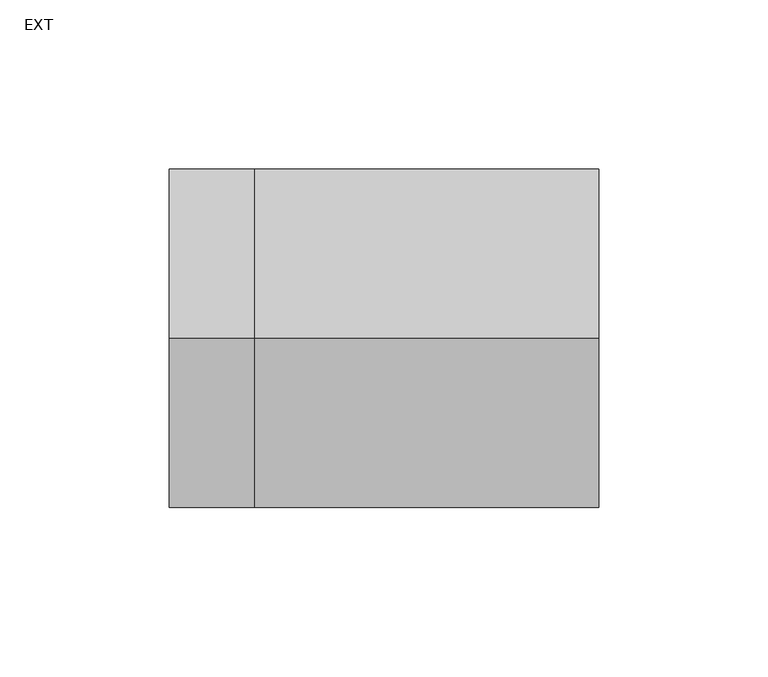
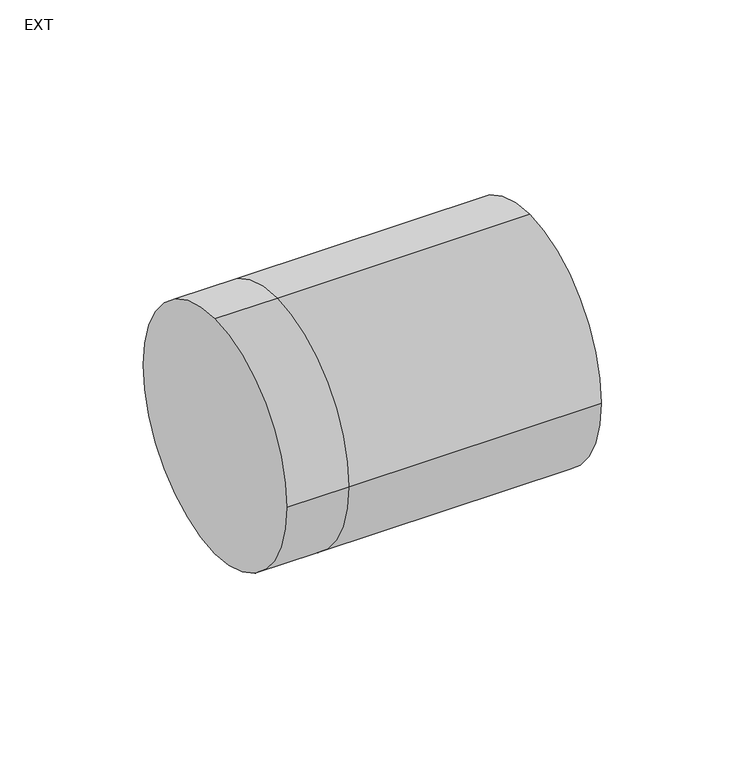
"""IFC4 building model written with IfcOpenShell, lengths in millimetres: duct fitting geometry, M_Toma de derivación redonda : EXT."""

import ifcopenshell
import ifcopenshell.guid

model = None  # the IFC model being written
_history = None  # IfcOwnerHistory: only IFC2X3 demands one
_inside = {}  # id of a spatial element -> (the spatial element, [elements in it])
_under = {}  # id of a project, library or spatial element -> (it, [spatial elements below it])
_declared = {}  # id of a project -> (the project, [libraries it declares])
_typed = {}  # id of a type object -> (the type object, [elements of that type])
_made_of = {}  # id of a material, layer set ... -> (it, [elements and type objects made of it])


def new_model(schema):
    """Start an empty IFC model of exactly this schema.

    Asked for "IFC4X3", IfcOpenShell would pick the latest addendum, in which some entities
    have other attributes; the version numbers below select the first issue.
    IFC2X3 requires an IfcOwnerHistory on every rooted entity: one is made here for all.
    """
    global model, _history
    if schema == "IFC4X3":
        model = ifcopenshell.file(schema_version=(4, 3, 0, 0))
    else:
        model = ifcopenshell.file(schema=schema)
    _inside.clear()
    _under.clear()
    _declared.clear()
    _typed.clear()
    _made_of.clear()
    _history = None
    if model.schema == "IFC2X3":
        org = make("IfcOrganization", Name="unknown")
        user = make(
            "IfcPersonAndOrganization",
            ThePerson=make("IfcPerson", FamilyName="unknown"),
            TheOrganization=org,
        )
        app = make(
            "IfcApplication",
            ApplicationDeveloper=org,
            Version="unknown",
            ApplicationFullName="unknown",
            ApplicationIdentifier="unknown",
        )
        _history = make(
            "IfcOwnerHistory",
            OwningUser=user,
            OwningApplication=app,
            ChangeAction="ADDED",
            CreationDate=0,
        )
    return model


def make(cls, **values):
    """One entity of the class cls with the attributes given. An attribute that is None is left unset."""
    return model.create_entity(
        cls, **{name: value for name, value in values.items() if value is not None}
    )


def rooted(cls, **values):
    """An entity with a GlobalId (a new one), such as an element, a storey or a relation."""
    return make(cls, GlobalId=ifcopenshell.guid.new(), OwnerHistory=_history, **values)


def si_unit(unit_type, name, prefix=None):
    """IfcSIUnit, for example si_unit("LENGTHUNIT", "METRE", prefix="MILLI")."""
    return make("IfcSIUnit", UnitType=unit_type, Prefix=prefix, Name=name)


def assignment(units):
    """IfcUnitAssignment: the units of a project."""
    return None if units is None else make("IfcUnitAssignment", Units=units)


def point(xyz):
    """IfcCartesianPoint."""
    return None if xyz is None else make("IfcCartesianPoint", Coordinates=xyz)


def direction(xyz):
    """IfcDirection."""
    return None if xyz is None else make("IfcDirection", DirectionRatios=xyz)


def frame(location, z_axis=None, x_axis=None):
    """IfcAxis2Placement3D, a coordinate frame: its origin and axes. An axis left out is left unset."""
    return make(
        "IfcAxis2Placement3D",
        Location=point(location),
        Axis=direction(z_axis),
        RefDirection=direction(x_axis),
    )


def origin():
    """The frame at (0, 0, 0) with its axes left unset."""
    return frame((0.0, 0.0, 0.0))


def place(relative_to, where):
    """IfcLocalPlacement: puts the frame where relative to a parent placement (None: the world)."""
    return make(
        "IfcLocalPlacement", PlacementRelTo=relative_to, RelativePlacement=where
    )


def context(
    kind, dimensions, precision=None, world=None, true_north=None, identifier=None
):
    """IfcGeometricRepresentationContext, for example the 3D "Model" context."""
    return make(
        "IfcGeometricRepresentationContext",
        ContextIdentifier=identifier,
        ContextType=kind,
        CoordinateSpaceDimension=dimensions,
        Precision=precision,
        WorldCoordinateSystem=world,
        TrueNorth=true_north,
    )


def project(units=None, contexts=None):
    """IfcProject with its units and contexts."""
    return rooted(
        "IfcProject",
        Name="project",
        RepresentationContexts=contexts,
        UnitsInContext=assignment(units),
    )


def spatial(cls, under=None, at=None, **own):
    """A site, building, storey or space (cls), placed at a placement, below another one or the project."""
    s = rooted(cls, ObjectPlacement=at, **own)
    if under is not None:
        _under.setdefault(under.id(), (under, []))[1].append(s)
    return s


def circle_curve(where, radius):
    """IfcCircle in the frame where."""
    return make("IfcCircle", Position=where, Radius=radius)


def shape(context_of_items, identifier, shape_type, items):
    """IfcShapeRepresentation: the items that make up one representation, for example the "Body"."""
    return make(
        "IfcShapeRepresentation",
        ContextOfItems=context_of_items,
        RepresentationIdentifier=identifier,
        RepresentationType=shape_type,
        Items=items,
    )


def source(mapping_origin, context_of_items, identifier, shape_type, items):
    """IfcRepresentationMap: a shape defined once, which mapped items show again and again."""
    return make(
        "IfcRepresentationMap",
        MappingOrigin=mapping_origin,
        MappedRepresentation=shape(context_of_items, identifier, shape_type, items),
    )


def transform(
    local_origin,
    x_axis=None,
    y_axis=None,
    z_axis=None,
    scale=None,
    scale2=None,
    scale3=None,
    uniform=True,
):
    """IfcCartesianTransformationOperator3D, or its non-uniform kind. x_axis, y_axis, z_axis: its Axis1, 2, 3."""
    if uniform:
        return make(
            "IfcCartesianTransformationOperator3D",
            Axis1=direction(x_axis),
            Axis2=direction(y_axis),
            LocalOrigin=point(local_origin),
            Scale=scale,
            Axis3=direction(z_axis),
        )
    return make(
        "IfcCartesianTransformationOperator3DnonUniform",
        Axis1=direction(x_axis),
        Axis2=direction(y_axis),
        LocalOrigin=point(local_origin),
        Scale=scale,
        Axis3=direction(z_axis),
        Scale2=scale2,
        Scale3=scale3,
    )


def mapped(mapping_source, mapping_target):
    """IfcMappedItem: shows the shape of a source again, moved by a transform."""
    return make(
        "IfcMappedItem", MappingSource=mapping_source, MappingTarget=mapping_target
    )


def made_of(thing, what):
    """Note that an element or type object is made of a material, layer set ...; save() writes the relation."""
    if what is not None:
        _made_of.setdefault(what.id(), (what, []))[1].append(thing)
    return thing


def element(
    cls,
    number,
    at=None,
    inside=None,
    cuts=None,
    type_object=None,
    material=None,
    context=None,
    identifier="Body",
    shape_type=None,
    held_by="IfcProductDefinitionShape",
    body=None,
    shapes=None,
    **own,
):
    """One element of the class cls, such as IfcWall. Its Tag is "e" and its number.

    at: its placement. inside: the storey or other place that contains it. cuts: it is an
    opening in that element (IfcRelVoidsElement). A single representation is given by context,
    identifier, shape_type and body (its items); several are given by shapes. held_by: the class
    of the entity that holds the representations. save() writes the other relations.
    """
    e = rooted(cls, Tag="e%d" % number, ObjectPlacement=at, **own)
    if body is not None:
        shapes = [shape(context, identifier, shape_type, body)]
    if shapes is not None:
        e.Representation = make(held_by, Representations=shapes)
    if inside is not None:
        _inside.setdefault(inside.id(), (inside, []))[1].append(e)
    if cuts is not None:
        rooted(
            "IfcRelVoidsElement", RelatingBuildingElement=cuts, RelatedOpeningElement=e
        )
    if type_object is not None:
        _typed.setdefault(type_object.id(), (type_object, []))[1].append(e)
    return made_of(e, material)


def aggregate(whole, parts):
    """IfcRelAggregates: a whole, such as a stair, and the parts it consists of."""
    return rooted("IfcRelAggregates", RelatingObject=whole, RelatedObjects=parts)


def save(model, path):
    """Write the relations noted so far, then the file.

    IfcRelAggregates (storeys below a building ...), IfcRelContainedInSpatialStructure (elements
    in a storey), IfcRelDefinesByType, IfcRelAssociatesMaterial and IfcRelDeclares: one each for
    every whole, place, type object, material and project.
    """
    for whole, parts in _under.values():
        aggregate(whole, parts)
    for where, things in _inside.values():
        rooted(
            "IfcRelContainedInSpatialStructure",
            RelatedElements=things,
            RelatingStructure=where,
        )
    for kind, things in _typed.values():
        rooted("IfcRelDefinesByType", RelatedObjects=things, RelatingType=kind)
    for what, things in _made_of.values():
        rooted("IfcRelAssociatesMaterial", RelatedObjects=things, RelatingMaterial=what)
    for by, libraries in _declared.values():
        rooted("IfcRelDeclares", RelatingContext=by, RelatedDefinitions=libraries)
    model.write(path)


def plane_surface(at):
    """IfcPlane: the flat surface through the origin of the frame at, square to its z axis."""
    return make("IfcPlane", Position=at)


def cylinder_surface(at, radius):
    """IfcCylindricalSurface: all points at the distance radius from the z axis of the frame at."""
    return make("IfcCylindricalSurface", Position=at, Radius=radius)


def advanced_brep(points, edges, surfaces, faces):
    """IfcAdvancedBrep: a solid bounded by faces that lie on surfaces and meet in shared edges.

    An edge is (start, end): straight between two places in points (the first is 0);
    or (start, end, curve); or (start, end, curve, False) where it runs against its curve.
    A face is (place in surfaces, loops), or (place, loops, False) where it looks against
    its surface's normal. A loop lists edges by number (the first is 1), with a minus sign
    where the edge is run from its end to its start. The first loop is the outer one.
    """
    corners = [point(p) for p in points]
    vertices = [make("IfcVertexPoint", VertexGeometry=c) for c in corners]
    made = []
    for start, end, *more in edges:
        made.append(
            make(
                "IfcEdgeCurve",
                EdgeStart=vertices[start],
                EdgeEnd=vertices[end],
                EdgeGeometry=more[0] if more else make("IfcPolyline", Points=[corners[start], corners[end]]),
                SameSense=more[1] if len(more) > 1 else True,
            )
        )
    hull = []
    for where, loops, *sense in faces:
        bounds = []
        for j, loop in enumerate(loops):
            ring = [make("IfcOrientedEdge", EdgeElement=made[abs(k) - 1], Orientation=k > 0) for k in loop]
            bounds.append(
                make(
                    "IfcFaceOuterBound" if j == 0 else "IfcFaceBound",
                    Bound=make("IfcEdgeLoop", EdgeList=ring),
                    Orientation=True,
                )
            )
        hull.append(make("IfcAdvancedFace", Bounds=bounds, FaceSurface=surfaces[where], SameSense=sense[0] if sense else True))
    return make("IfcAdvancedBrep", Outer=make("IfcClosedShell", CfsFaces=hull))


def ext_db029bdf(model_context):
    return source(origin(), model_context, "Body", "AdvancedBrep", [
        advanced_brep(
        [(101.6, 0.0, 50.0), (101.6, -50.0, 0.0), (101.6, 0.0, -50.0), (101.6, 50.0, 0.0), (0.0, 0.0, 50.0), (0.0, -50.0, 0.0), (0.0, 0.0, -50.0), (0.0, 50.0, 0.0), (-25.1943006, 0.0, 50.0), (-25.1943006, 50.0, 0.0), (-25.1943006, 0.0, -50.0), (-25.1943006, -50.0, 0.0)],
        [
            (0, 1, circle_curve(frame((101.6, 0.0, 0.0), z_axis=(1.0, 0.0, 0.0), x_axis=(0.0, -1.0, 0.0)), 50.0)),
            (1, 2, circle_curve(frame((101.6, 0.0, 0.0), z_axis=(1.0, 0.0, 0.0), x_axis=(0.0, -1.0, 0.0)), 50.0)),
            (2, 3, circle_curve(frame((101.6, 0.0, 0.0), z_axis=(1.0, 0.0, 0.0), x_axis=(0.0, -1.0, 0.0)), 50.0)),
            (3, 0, circle_curve(frame((101.6, 0.0, 0.0), z_axis=(1.0, 0.0, 0.0), x_axis=(0.0, -1.0, 0.0)), 50.0)),
            (0, 4),
            (4, 5, circle_curve(frame((0.0, 0.0, 0.0), z_axis=(1.0, 0.0, 0.0), x_axis=(0.0, -1.0, 0.0)), 50.0)),
            (5, 1),
            (5, 6, circle_curve(frame((0.0, 0.0, 0.0), z_axis=(1.0, 0.0, 0.0), x_axis=(0.0, -1.0, 0.0)), 50.0)),
            (6, 2),
            (6, 7, circle_curve(frame((0.0, 0.0, 0.0), z_axis=(1.0, 0.0, 0.0), x_axis=(0.0, -1.0, 0.0)), 50.0)),
            (7, 3),
            (7, 4, circle_curve(frame((0.0, 0.0, 0.0), z_axis=(1.0, 0.0, 0.0), x_axis=(0.0, -1.0, 0.0)), 50.0)),
            (8, 9, circle_curve(frame((-25.1943006, 0.0, 0.0), z_axis=(-1.0, 0.0, 0.0), x_axis=(0.0, -1.0, 0.0)), 50.0)),
            (9, 10, circle_curve(frame((-25.1943006, 0.0, 0.0), z_axis=(-1.0, 0.0, 0.0), x_axis=(0.0, -1.0, 0.0)), 50.0)),
            (10, 11, circle_curve(frame((-25.1943006, 0.0, 0.0), z_axis=(-1.0, 0.0, 0.0), x_axis=(0.0, -1.0, 0.0)), 50.0)),
            (11, 8, circle_curve(frame((-25.1943006, 0.0, 0.0), z_axis=(-1.0, 0.0, 0.0), x_axis=(0.0, -1.0, 0.0)), 50.0)),
            (11, 5),
            (4, 8),
            (10, 6),
            (9, 7),
        ],
        [
            plane_surface(frame((101.6, 0.0, 0.0), z_axis=(1.0, 0.0, 0.0), x_axis=(0.0, 0.0, 1.0))),
            cylinder_surface(frame((0.0, 0.0, 0.0), z_axis=(-1.0, 0.0, 0.0), x_axis=(0.0, -1.0, 0.0)), 50.0),
            plane_surface(frame((-25.1943006, 0.0, 0.0), z_axis=(-1.0, 0.0, 0.0), x_axis=(0.0, 0.0, 1.0))),
            cylinder_surface(frame((-25.1943006, 0.0, 0.0), z_axis=(-1.0, 0.0, 0.0), x_axis=(0.0, -1.0, 0.0)), 50.0),
        ],
        [
            (0, [[1, 2, 3, 4]]),
            (1, [[5, 6, 7, -1]]),
            (1, [[-7, 8, 9, -2]]),
            (1, [[-9, 10, 11, -3]]),
            (1, [[-11, 12, -5, -4]]),
            (2, [[13, 14, 15, 16]]),
            (3, [[17, -6, 18, -16]]),
            (3, [[19, -8, -17, -15]]),
            (3, [[20, -10, -19, -14]]),
            (3, [[-18, -12, -20, -13]]),
        ],
    ),
    ])


if __name__ == "__main__":
    model = new_model("IFC4")
    model_context = context("Model", 3, world=origin())
    ifc_project = project(units=[si_unit("LENGTHUNIT", "METRE", prefix="MILLI")], contexts=[model_context])
    site = spatial("IfcSite", under=ifc_project)
    building = spatial("IfcBuilding", under=site)
    placement = place(None, origin())
    ext_shape = ext_db029bdf(model_context)
    element("IfcDuctFitting", 1, ObjectType="M_Toma de derivación redonda : EXT", at=placement, inside=building, context=model_context, shape_type="MappedRepresentation", body=[
        mapped(ext_shape, transform((0.0, 0.0, 0.0), x_axis=(1.0, 0.0, 0.0), y_axis=(0.0, 1.0, 0.0), z_axis=(0.0, 0.0, 1.0))),
    ])
    save(model, "model.ifc")
